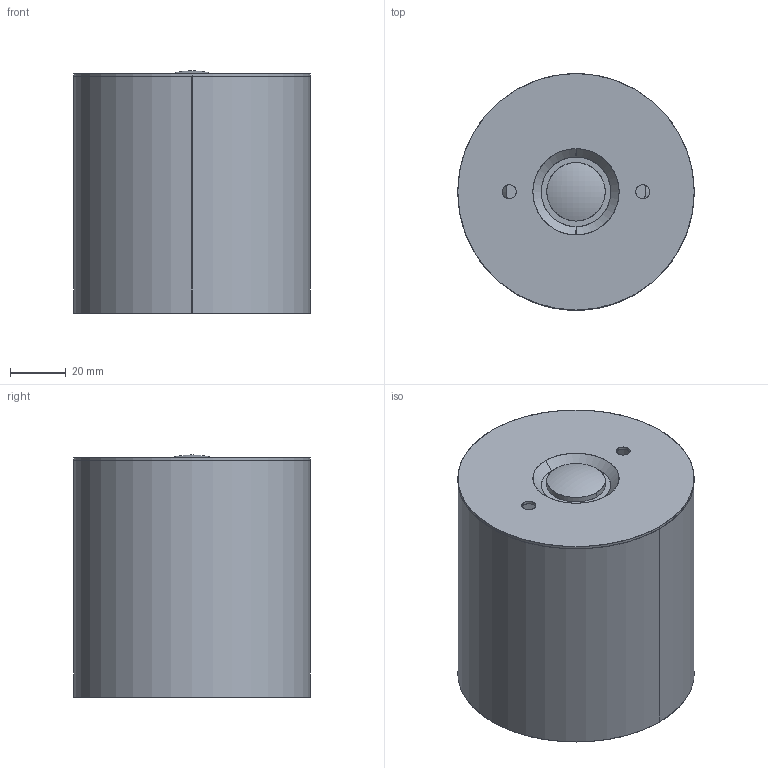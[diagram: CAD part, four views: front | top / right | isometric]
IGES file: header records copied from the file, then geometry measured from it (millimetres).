
Start section: SolidWorks IGES file using analytic representation for surfaces
Global section: file name: C:\Users\anna.bielnik\Desktop\CEARA PM\CEARA PM.IGS; native system: SolidWorks 2023; preprocessor: SolidWorks 2023; author: anna.bielnik; date: 240506.084746; units: millimetre
Bounding box: 85 x 85 x 87.03 mm (x, y, z)
Surface area: 79214.1 mm2 (no closed solid volume)
Topology: 0 solids, 0 shells, 49 faces, 1764 edges, 1764 vertices
Faces by surface type: revolution 34, bspline 15
